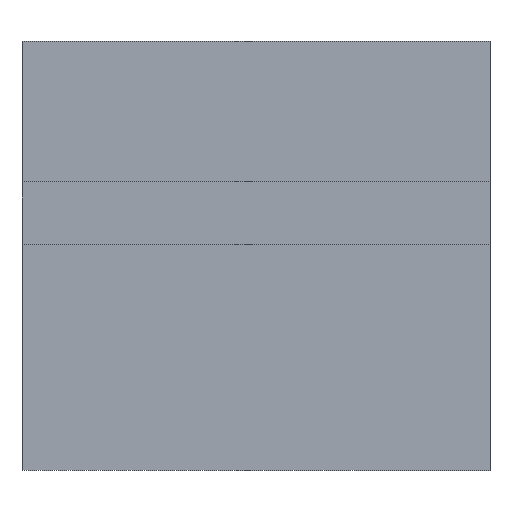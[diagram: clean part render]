
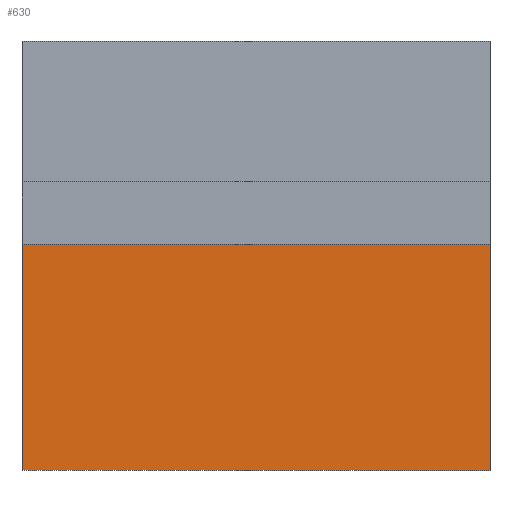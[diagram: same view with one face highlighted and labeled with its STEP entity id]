
A CAD part, left-side view. The second image highlights one B-rep face of the part: STEP entity #630.
In plain terms, the highlighted planar face has unit normal (-1, 0, 0).
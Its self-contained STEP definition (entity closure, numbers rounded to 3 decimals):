
#63 = VERTEX_POINT('',#64);
#64 = CARTESIAN_POINT('',(100.,-12.,3.4));
#73 = PLANE('',#74);
#74 = AXIS2_PLACEMENT_3D('',#75,#76,#77);
#75 = CARTESIAN_POINT('',(89.,-12.,0.));
#76 = DIRECTION('',(-0.,1.,0.));
#77 = DIRECTION('',(0.,0.,1.));
#84 = PLANE('',#85);
#85 = AXIS2_PLACEMENT_3D('',#86,#87,#88);
#86 = CARTESIAN_POINT('',(-103.,0.,3.4));
#87 = DIRECTION('',(0.,0.,1.));
#88 = DIRECTION('',(1.,0.,0.));
#95 = EDGE_CURVE('',#63,#96,#98,.T.);
#96 = VERTEX_POINT('',#97);
#97 = CARTESIAN_POINT('',(100.,-12.,15.));
#98 = SURFACE_CURVE('',#99,(#103,#109),.PCURVE_S1.);
#99 = LINE('',#100,#101);
#100 = CARTESIAN_POINT('',(100.,-12.,1.7));
#101 = VECTOR('',#102,1.);
#102 = DIRECTION('',(0.,0.,1.));
#103 = PCURVE('',#73,#104);
#104 = DEFINITIONAL_REPRESENTATION('',(#105),#108);
#105 = B_SPLINE_CURVE_WITH_KNOTS('',1,(#106,#107),.UNSPECIFIED.,.F.,.F.,
  (2,2),(1.7,23.7),.PIECEWISE_BEZIER_KNOTS.);
#106 = CARTESIAN_POINT('',(3.4,11.));
#107 = CARTESIAN_POINT('',(25.4,11.));
#108 = ( GEOMETRIC_REPRESENTATION_CONTEXT(2) 
PARAMETRIC_REPRESENTATION_CONTEXT() REPRESENTATION_CONTEXT('2D SPACE',''
  ) );
#109 = PCURVE('',#110,#115);
#110 = PLANE('',#111);
#111 = AXIS2_PLACEMENT_3D('',#112,#113,#114);
#112 = CARTESIAN_POINT('',(100.,-55.,3.4));
#113 = DIRECTION('',(-1.,0.,0.));
#114 = DIRECTION('',(0.,1.,0.));
#115 = DEFINITIONAL_REPRESENTATION('',(#116),#119);
#116 = B_SPLINE_CURVE_WITH_KNOTS('',1,(#117,#118),.UNSPECIFIED.,.F.,.F.,
  (2,2),(1.7,23.7),.PIECEWISE_BEZIER_KNOTS.);
#117 = CARTESIAN_POINT('',(43.,0.));
#118 = CARTESIAN_POINT('',(43.,-22.));
#119 = ( GEOMETRIC_REPRESENTATION_CONTEXT(2) 
PARAMETRIC_REPRESENTATION_CONTEXT() REPRESENTATION_CONTEXT('2D SPACE',''
  ) );
#136 = PLANE('',#137);
#137 = AXIS2_PLACEMENT_3D('',#138,#139,#140);
#138 = CARTESIAN_POINT('',(90.4,-51.,15.));
#139 = DIRECTION('',(0.,0.,1.));
#140 = DIRECTION('',(1.,0.,0.));
#302 = VERTEX_POINT('',#303);
#303 = CARTESIAN_POINT('',(100.,12.,3.4));
#316 = PLANE('',#317);
#317 = AXIS2_PLACEMENT_3D('',#318,#319,#320);
#318 = CARTESIAN_POINT('',(89.,12.,0.));
#319 = DIRECTION('',(-0.,1.,0.));
#320 = DIRECTION('',(0.,0.,1.));
#327 = EDGE_CURVE('',#63,#302,#328,.T.);
#328 = SURFACE_CURVE('',#329,(#333,#340),.PCURVE_S1.);
#329 = LINE('',#330,#331);
#330 = CARTESIAN_POINT('',(100.,0.,3.4));
#331 = VECTOR('',#332,1.);
#332 = DIRECTION('',(0.,1.,0.));
#333 = PCURVE('',#84,#334);
#334 = DEFINITIONAL_REPRESENTATION('',(#335),#339);
#335 = LINE('',#336,#337);
#336 = CARTESIAN_POINT('',(203.,0.));
#337 = VECTOR('',#338,1.);
#338 = DIRECTION('',(0.,1.));
#339 = ( GEOMETRIC_REPRESENTATION_CONTEXT(2) 
PARAMETRIC_REPRESENTATION_CONTEXT() REPRESENTATION_CONTEXT('2D SPACE',''
  ) );
#340 = PCURVE('',#110,#341);
#341 = DEFINITIONAL_REPRESENTATION('',(#342),#346);
#342 = LINE('',#343,#344);
#343 = CARTESIAN_POINT('',(55.,0.));
#344 = VECTOR('',#345,1.);
#345 = DIRECTION('',(1.,0.));
#346 = ( GEOMETRIC_REPRESENTATION_CONTEXT(2) 
PARAMETRIC_REPRESENTATION_CONTEXT() REPRESENTATION_CONTEXT('2D SPACE',''
  ) );
#588 = VERTEX_POINT('',#589);
#589 = CARTESIAN_POINT('',(100.,12.,15.));
#610 = EDGE_CURVE('',#96,#588,#611,.T.);
#611 = SURFACE_CURVE('',#612,(#616,#623),.PCURVE_S1.);
#612 = LINE('',#613,#614);
#613 = CARTESIAN_POINT('',(100.,-53.,15.));
#614 = VECTOR('',#615,1.);
#615 = DIRECTION('',(0.,1.,0.));
#616 = PCURVE('',#136,#617);
#617 = DEFINITIONAL_REPRESENTATION('',(#618),#622);
#618 = LINE('',#619,#620);
#619 = CARTESIAN_POINT('',(9.6,-2.));
#620 = VECTOR('',#621,1.);
#621 = DIRECTION('',(0.,1.));
#622 = ( GEOMETRIC_REPRESENTATION_CONTEXT(2) 
PARAMETRIC_REPRESENTATION_CONTEXT() REPRESENTATION_CONTEXT('2D SPACE',''
  ) );
#623 = PCURVE('',#110,#624);
#624 = DEFINITIONAL_REPRESENTATION('',(#625),#629);
#625 = LINE('',#626,#627);
#626 = CARTESIAN_POINT('',(2.,-11.6));
#627 = VECTOR('',#628,1.);
#628 = DIRECTION('',(1.,0.));
#629 = ( GEOMETRIC_REPRESENTATION_CONTEXT(2) 
PARAMETRIC_REPRESENTATION_CONTEXT() REPRESENTATION_CONTEXT('2D SPACE',''
  ) );
#630 = ADVANCED_FACE('',(#631),#110,.T.);
#631 = FACE_BOUND('',#632,.T.);
#632 = EDGE_LOOP('',(#633,#634,#635,#636));
#633 = ORIENTED_EDGE('',*,*,#327,.F.);
#634 = ORIENTED_EDGE('',*,*,#95,.T.);
#635 = ORIENTED_EDGE('',*,*,#610,.T.);
#636 = ORIENTED_EDGE('',*,*,#637,.F.);
#637 = EDGE_CURVE('',#302,#588,#638,.T.);
#638 = SURFACE_CURVE('',#639,(#643,#649),.PCURVE_S1.);
#639 = LINE('',#640,#641);
#640 = CARTESIAN_POINT('',(100.,12.,1.7));
#641 = VECTOR('',#642,1.);
#642 = DIRECTION('',(0.,0.,1.));
#643 = PCURVE('',#110,#644);
#644 = DEFINITIONAL_REPRESENTATION('',(#645),#648);
#645 = B_SPLINE_CURVE_WITH_KNOTS('',1,(#646,#647),.UNSPECIFIED.,.F.,.F.,
  (2,2),(1.7,23.7),.PIECEWISE_BEZIER_KNOTS.);
#646 = CARTESIAN_POINT('',(67.,0.));
#647 = CARTESIAN_POINT('',(67.,-22.));
#648 = ( GEOMETRIC_REPRESENTATION_CONTEXT(2) 
PARAMETRIC_REPRESENTATION_CONTEXT() REPRESENTATION_CONTEXT('2D SPACE',''
  ) );
#649 = PCURVE('',#316,#650);
#650 = DEFINITIONAL_REPRESENTATION('',(#651),#654);
#651 = B_SPLINE_CURVE_WITH_KNOTS('',1,(#652,#653),.UNSPECIFIED.,.F.,.F.,
  (2,2),(1.7,23.7),.PIECEWISE_BEZIER_KNOTS.);
#652 = CARTESIAN_POINT('',(3.4,11.));
#653 = CARTESIAN_POINT('',(25.4,11.));
#654 = ( GEOMETRIC_REPRESENTATION_CONTEXT(2) 
PARAMETRIC_REPRESENTATION_CONTEXT() REPRESENTATION_CONTEXT('2D SPACE',''
  ) );
